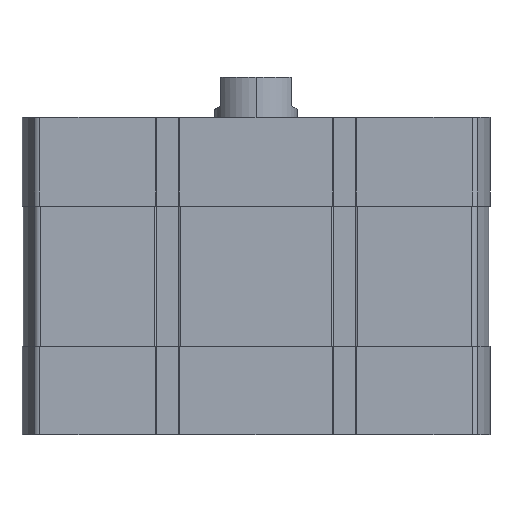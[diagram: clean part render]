
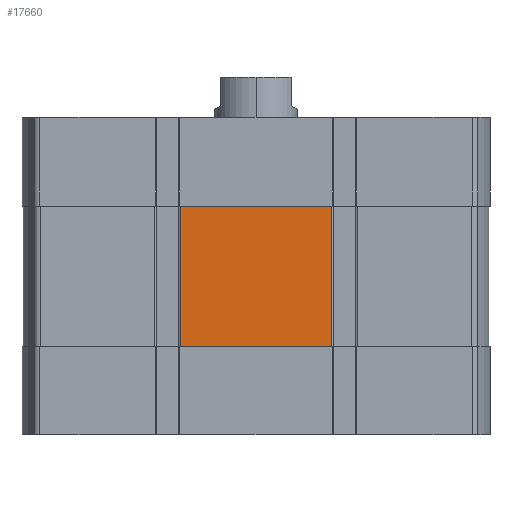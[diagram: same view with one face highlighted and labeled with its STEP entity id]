
A CAD part, left-side view. The second image highlights one B-rep face of the part: STEP entity #17660.
In plain terms, the highlighted planar face has unit normal (-1, 0, 0).
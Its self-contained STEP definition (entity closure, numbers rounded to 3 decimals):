
#353 = CARTESIAN_POINT ( 'NONE',  ( -56.5, -18.345, -55.5 ) ) ;
#385 = DIRECTION ( 'NONE',  ( 0., 0., 1. ) ) ;
#498 = VERTEX_POINT ( 'NONE', #20300 ) ;
#1105 = CARTESIAN_POINT ( 'NONE',  ( -56.5, 18.345, -21.5 ) ) ;
#1172 = VECTOR ( 'NONE', #1898, 1000. ) ;
#1180 = CARTESIAN_POINT ( 'NONE',  ( -56.5, -18.345, -55.5 ) ) ;
#1271 = LINE ( 'NONE', #20087, #12089 ) ;
#1569 = CARTESIAN_POINT ( 'NONE',  ( -56.5, -18.345, -21.5 ) ) ;
#1898 = DIRECTION ( 'NONE',  ( 0., 0., 1. ) ) ;
#3027 = DIRECTION ( 'NONE',  ( 0., -1., 0. ) ) ;
#4393 = FACE_OUTER_BOUND ( 'NONE', #6281, .T. ) ;
#4901 = CARTESIAN_POINT ( 'NONE',  ( -56.5, 18.345, -21.5 ) ) ;
#5356 = ORIENTED_EDGE ( 'NONE', *, *, #13620, .T. ) ;
#6281 = EDGE_LOOP ( 'NONE', ( #13440, #8493, #5356, #16128 ) ) ;
#8017 = VERTEX_POINT ( 'NONE', #1180 ) ;
#8176 = DIRECTION ( 'NONE',  ( 0., -1., 0. ) ) ;
#8183 = CARTESIAN_POINT ( 'NONE',  ( -56.5, 18.345, -55.5 ) ) ;
#8493 = ORIENTED_EDGE ( 'NONE', *, *, #18909, .F. ) ;
#9075 = VERTEX_POINT ( 'NONE', #1105 ) ;
#9759 = EDGE_CURVE ( 'NONE', #8017, #15331, #17712, .T. ) ;
#10229 = VECTOR ( 'NONE', #8176, 1000. ) ;
#10654 = DIRECTION ( 'NONE',  ( 0., 0., 1. ) ) ;
#11564 = VECTOR ( 'NONE', #385, 1000. ) ;
#12089 = VECTOR ( 'NONE', #3027, 1000. ) ;
#12095 = PLANE ( 'NONE',  #15156 ) ;
#12193 = DIRECTION ( 'NONE',  ( -1., 0., 0. ) ) ;
#13440 = ORIENTED_EDGE ( 'NONE', *, *, #17821, .F. ) ;
#13620 = EDGE_CURVE ( 'NONE', #498, #8017, #1271, .T. ) ;
#14147 = LINE ( 'NONE', #4901, #10229 ) ;
#15156 = AXIS2_PLACEMENT_3D ( 'NONE', #15189, #12193, #10654 ) ;
#15189 = CARTESIAN_POINT ( 'NONE',  ( -56.5, 18.345, -55.5 ) ) ;
#15331 = VERTEX_POINT ( 'NONE', #1569 ) ;
#16128 = ORIENTED_EDGE ( 'NONE', *, *, #9759, .T. ) ;
#17660 = ADVANCED_FACE ( 'NONE', ( #4393 ), #12095, .T. ) ;
#17712 = LINE ( 'NONE', #353, #1172 ) ;
#17821 = EDGE_CURVE ( 'NONE', #9075, #15331, #14147, .T. ) ;
#18909 = EDGE_CURVE ( 'NONE', #498, #9075, #19101, .T. ) ;
#19101 = LINE ( 'NONE', #8183, #11564 ) ;
#20087 = CARTESIAN_POINT ( 'NONE',  ( -56.5, 18.345, -55.5 ) ) ;
#20300 = CARTESIAN_POINT ( 'NONE',  ( -56.5, 18.345, -55.5 ) ) ;
